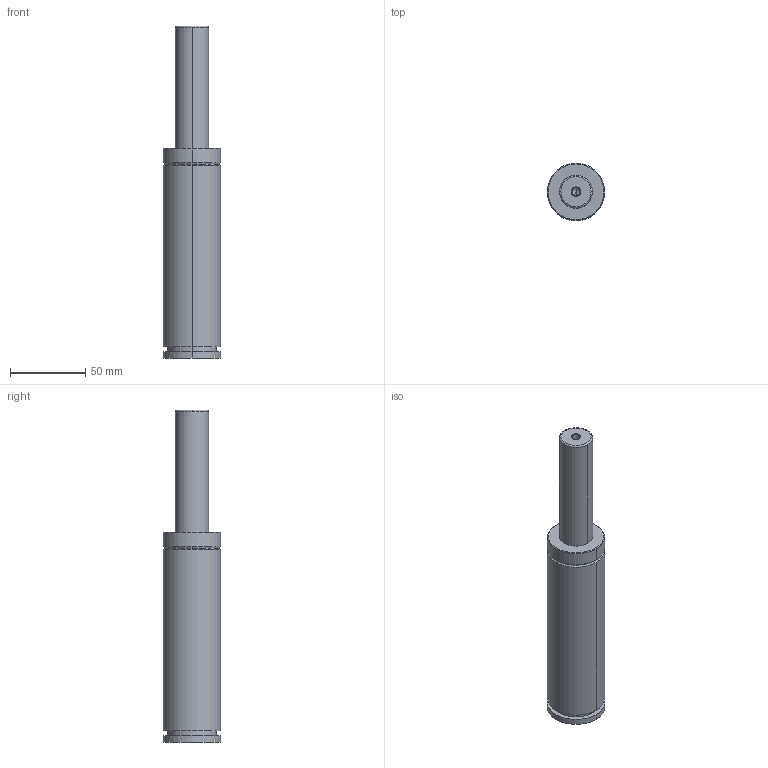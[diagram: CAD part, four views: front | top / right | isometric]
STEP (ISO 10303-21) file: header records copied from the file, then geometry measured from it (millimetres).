
FILE_DESCRIPTION(('FreeCAD Model'),'2;1');
FILE_NAME('Open CASCADE Shape Model','2024-11-12T15:48:14',('Author'),( ''),'Open CASCADE STEP processor 7.6','FreeCAD','Unknown');
FILE_SCHEMA(('AUTOMOTIVE_DESIGN { 1 0 10303 214 1 1 1 1 }'));
Length unit declared in the file: millimetre
Products named in the file (3): Unnamed; Cut; 2
Assembly tree (2 placements, depth 2):
  Unnamed
    Cut
    2
Bounding box: 38 x 38 x 220 mm (x, y, z)
Volume: 155151.5 mm3; surface area: 32314.1 mm2
Topology: 2 solids, 2 shells, 43 faces, 89 edges, 56 vertices
Faces by surface type: cylinder 20, plane 11, torus 6, cone 6
Full cylindrical faces by diameter (mm): 6 x2
Entity records: 1221 total; most frequent: DIRECTION 240, CARTESIAN_POINT 189, ORIENTED_EDGE 174, AXIS2_PLACEMENT_3D 107, EDGE_CURVE 87, CIRCLE 61, VERTEX_POINT 56, FACE_BOUND 51
